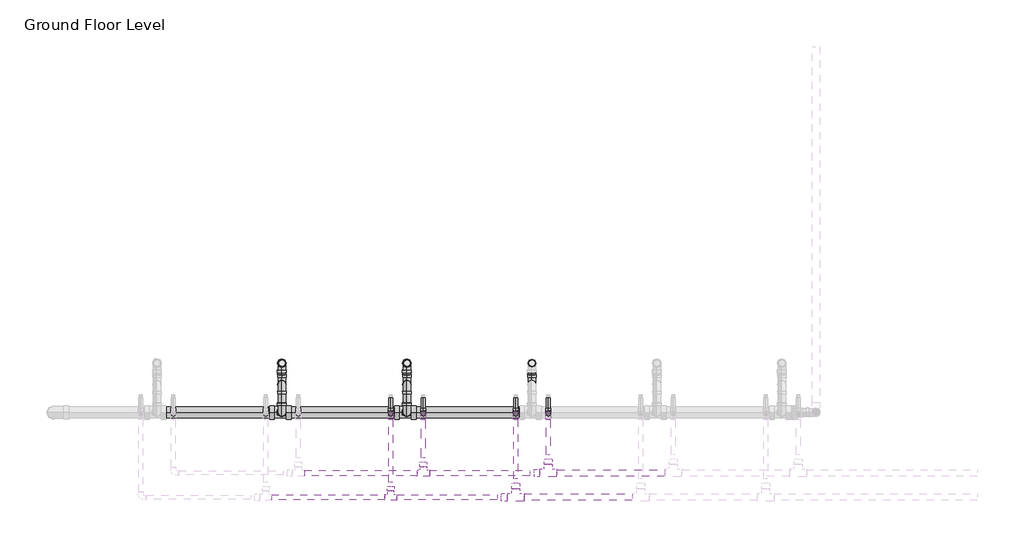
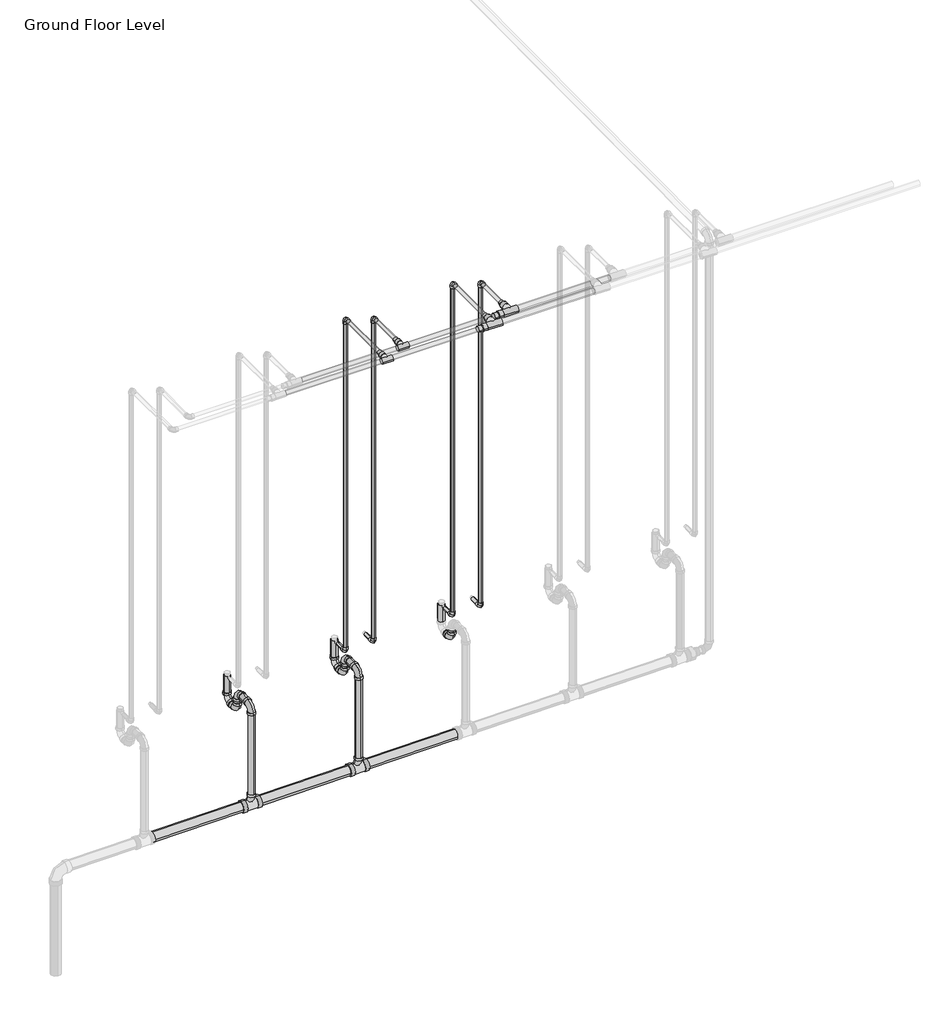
# One storey, part 40 of 74: 34 pipe segments, 29 pipe fittings.
"""IFC4 building model written with IfcOpenShell, lengths in millimetres."""

from ifc_helpers import new_model, si_unit, point, frame, frame_2d, origin, place, context, project, spatial, circle_curve, trimmed, segment, composite_curve, outline, extrude, transform, mapped, element, save
from components import m_bend_pvc_sch_40_dwv_standard_1e7bdcc1, m_bend_pvc_sch_40_dwv_standard_776e50c4, m_tee_reducing_sanitary_pvc_sch_40_dwv_standard_21d2848c, standard_b266ab3f, standard_72b35c3b, standard_08ff6011, standard_d0d0b892, standard_83629b21, standard_e954f56a

model = new_model("IFC4")

# Units and contexts
model_context = context("Model", 3, world=origin())
ifc_project = project(units=[si_unit("LENGTHUNIT", "METRE", prefix="MILLI")], contexts=[model_context])

# Site, building, storey
site = spatial("IfcSite", under=ifc_project)
building = spatial("IfcBuilding", under=site)
storey = spatial("IfcBuildingStorey", under=building, Name="Ground Floor Level", Elevation=900.0)

# Pipe fittings
placement = place(None, origin())
m_bend_pvc_sch_40_dwv_standard_shape = m_bend_pvc_sch_40_dwv_standard_1e7bdcc1(model_context)
element("IfcPipeFitting", 1, ObjectType="M_Bend - PVC - Sch 40 - DWV : Standard", at=placement, inside=storey, context=model_context, shape_type="MappedRepresentation", body=[
    mapped(m_bend_pvc_sch_40_dwv_standard_shape, transform((-19462.4847207, 9458.7835646, 1360.0), x_axis=(0.0, 0.9999500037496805, 0.009999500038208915), y_axis=(0.0, -0.009999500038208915, 0.9999500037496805), z_axis=(1.0, 0.0, 0.0))),
])
element("IfcPipeFitting", 2, ObjectType="M_Bend - PVC - Sch 40 - DWV : Standard", at=placement, inside=storey, context=model_context, shape_type="MappedRepresentation", body=[
    mapped(m_bend_pvc_sch_40_dwv_standard_shape, transform((-20262.4847207, 9458.7835646, 1360.0), x_axis=(0.0, 0.9999500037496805, 0.009999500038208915), y_axis=(0.0, -0.009999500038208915, 0.9999500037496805), z_axis=(1.0, 0.0, 0.0))),
])
element("IfcPipeFitting", 3, ObjectType="M_Bend - PVC - Sch 40 - DWV : Standard", at=placement, inside=storey, context=model_context, shape_type="MappedRepresentation", body=[
    mapped(m_bend_pvc_sch_40_dwv_standard_shape, transform((-19462.2847407, 9143.7835646, 1498.2), x_axis=(0.0, -0.9999500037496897, -0.00999950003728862), y_axis=(0.0, 0.00999950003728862, -0.9999500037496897), z_axis=(1.0, 0.0, 0.0))),
])
element("IfcPipeFitting", 4, ObjectType="M_Bend - PVC - Sch 40 - DWV : Standard", at=placement, inside=storey, context=model_context, shape_type="MappedRepresentation", body=[
    mapped(m_bend_pvc_sch_40_dwv_standard_shape, transform((-20262.2847407, 9143.7835646, 1498.2), x_axis=(0.0, -0.9999500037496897, -0.00999950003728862), y_axis=(0.0, 0.00999950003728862, -0.9999500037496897), z_axis=(1.0, 0.0, 0.0))),
])
m_bend_pvc_sch_40_dwv_standard_2_shape = m_bend_pvc_sch_40_dwv_standard_776e50c4(model_context)
element("IfcPipeFitting", 5, ObjectType="M_Bend - PVC - Sch 40 - DWV : Standard", at=placement, inside=storey, context=model_context, shape_type="MappedRepresentation", body=[
    mapped(m_bend_pvc_sch_40_dwv_standard_2_shape, transform((-18662.4847207, 9323.7835646, 1358.65), x_axis=(0.0, -0.9999500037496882, -0.009999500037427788), y_axis=(0.0, -0.009999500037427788, 0.9999500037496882), z_axis=(-1.0, 0.0, 0.0))),
])
element("IfcPipeFitting", 6, ObjectType="M_Bend - PVC - Sch 40 - DWV : Standard", at=placement, inside=storey, context=model_context, shape_type="MappedRepresentation", body=[
    mapped(m_bend_pvc_sch_40_dwv_standard_2_shape, transform((-19462.4847207, 9323.7835646, 1358.65), x_axis=(0.0, -0.9999500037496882, -0.009999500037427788), y_axis=(0.0, -0.009999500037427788, 0.9999500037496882), z_axis=(-1.0, 0.0, 0.0))),
])
element("IfcPipeFitting", 7, ObjectType="M_Bend - PVC - Sch 40 - DWV : Standard", at=placement, inside=storey, context=model_context, shape_type="MappedRepresentation", body=[
    mapped(m_bend_pvc_sch_40_dwv_standard_2_shape, transform((-19462.4847207, 9323.7835646, 1500.0), x_axis=(0.0, 0.0, 1.0), y_axis=(0.0, -1.0, 0.0), z_axis=(1.0, 0.0, 0.0))),
])
element("IfcPipeFitting", 8, ObjectType="M_Bend - PVC - Sch 40 - DWV : Standard", at=placement, inside=storey, context=model_context, shape_type="MappedRepresentation", body=[
    mapped(m_bend_pvc_sch_40_dwv_standard_2_shape, transform((-20262.4847207, 9323.7835646, 1358.65), x_axis=(0.0, -0.9999500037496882, -0.009999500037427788), y_axis=(0.0, -0.009999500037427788, 0.9999500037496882), z_axis=(-1.0, 0.0, 0.0))),
])
element("IfcPipeFitting", 9, ObjectType="M_Bend - PVC - Sch 40 - DWV : Standard", at=placement, inside=storey, context=model_context, shape_type="MappedRepresentation", body=[
    mapped(m_bend_pvc_sch_40_dwv_standard_2_shape, transform((-20262.4847207, 9323.7835646, 1500.0), x_axis=(0.0, 0.0, 1.0), y_axis=(0.0, -1.0, 0.0), z_axis=(1.0, 0.0, 0.0))),
])
m_tee_reducing_sanitary_pvc_sch_40_dwv_standard_shape = m_tee_reducing_sanitary_pvc_sch_40_dwv_standard_21d2848c(model_context)
element("IfcPipeFitting", 10, ObjectType="M_Tee Reducing Sanitary - PVC - Sch 40 - DWV : Standard", at=placement, inside=storey, context=model_context, shape_type="MappedRepresentation", body=[
    mapped(m_tee_reducing_sanitary_pvc_sch_40_dwv_standard_shape, transform((-19462.2892402, 9143.7835646, 735.2441999), x_axis=(0.9999500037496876, 0.0, 0.009999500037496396), y_axis=(0.009999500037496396, 0.0, -0.9999500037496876), z_axis=(0.0, 1.0, 0.0))),
])
element("IfcPipeFitting", 11, ObjectType="M_Tee Reducing Sanitary - PVC - Sch 40 - DWV : Standard", at=placement, inside=storey, context=model_context, shape_type="MappedRepresentation", body=[
    mapped(m_tee_reducing_sanitary_pvc_sch_40_dwv_standard_shape, transform((-20262.2892402, 9143.7835646, 727.2441999), x_axis=(0.9999500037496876, 0.0, 0.009999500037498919), y_axis=(0.009999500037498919, 0.0, -0.9999500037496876), z_axis=(0.0, 1.0, 0.0))),
])
standard_shape = standard_b266ab3f(model_context)
element("IfcPipeFitting", 12, ObjectType="M_Elbow - CPVC - Sch 40 : Standard", at=placement, inside=storey, context=model_context, shape_type="MappedRepresentation", body=[
    mapped(standard_shape, transform((-19356.9352794, 9135.2153534, 4250.0), x_axis=(0.0, 0.0, 1.0), y_axis=(0.0, -1.0, 0.0), z_axis=(1.0, 0.0, 0.0))),
])
element("IfcPipeFitting", 13, ObjectType="M_Elbow - CPVC - Sch 40 : Standard", at=placement, inside=storey, context=model_context, shape_type="MappedRepresentation", body=[
    mapped(standard_shape, transform((-18556.7923674, 9135.2153534, 4250.0), x_axis=(0.0, 0.0, 1.0), y_axis=(0.0, -1.0, 0.0), z_axis=(1.0, 0.0, 0.0))),
])
element("IfcPipeFitting", 14, ObjectType="M_Elbow - CPVC - Sch 40 : Standard", at=placement, inside=storey, context=model_context, shape_type="MappedRepresentation", body=[
    mapped(standard_shape, transform((-19565.5651206, 9135.2153534, 1690.0), x_axis=(0.0, 0.0, -1.0), y_axis=(0.0, 1.0, 0.0), z_axis=(1.0, 0.0, 0.0))),
])
element("IfcPipeFitting", 15, ObjectType="M_Elbow - CPVC - Sch 40 : Standard", at=placement, inside=storey, context=model_context, shape_type="MappedRepresentation", body=[
    mapped(standard_shape, transform((-19356.9352794, 9135.2153534, 1690.0), x_axis=(0.0, 0.0, -1.0), y_axis=(0.0, 1.0, 0.0), z_axis=(1.0, 0.0, 0.0))),
])
element("IfcPipeFitting", 16, ObjectType="M_Elbow - CPVC - Sch 40 : Standard", at=placement, inside=storey, context=model_context, shape_type="MappedRepresentation", body=[
    mapped(standard_shape, transform((-18765.4222086, 9135.2153534, 1690.0), x_axis=(0.0, 0.0, -1.0), y_axis=(-0.0014291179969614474, 0.999998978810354, 0.0), z_axis=(0.999998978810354, 0.0014291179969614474, 0.0))),
])
element("IfcPipeFitting", 17, ObjectType="M_Elbow - CPVC - Sch 40 : Standard", at=placement, inside=storey, context=model_context, shape_type="MappedRepresentation", body=[
    mapped(standard_shape, transform((-18556.7923674, 9135.2153534, 1690.0), x_axis=(0.0, 0.0, -1.0), y_axis=(-0.0014291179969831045, 0.9999989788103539, 0.0), z_axis=(0.9999989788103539, 0.0014291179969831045, 0.0))),
])
element("IfcPipeFitting", 18, ObjectType="M_Elbow - CPVC - Sch 40 : Standard", at=placement, inside=storey, context=model_context, shape_type="MappedRepresentation", body=[
    mapped(standard_shape, transform((-18765.4222086, 9135.2153534, 4315.0), x_axis=(0.0, 0.0, 1.0), y_axis=(0.0, -1.0, 0.0), z_axis=(1.0, 0.0, 0.0))),
])
element("IfcPipeFitting", 19, ObjectType="M_Elbow - CPVC - Sch 40 : Standard", at=placement, inside=storey, context=model_context, shape_type="MappedRepresentation", body=[
    mapped(standard_shape, transform((-19565.5651206, 9135.2153534, 4315.0), x_axis=(0.0, 0.0, 1.0), y_axis=(0.0, -1.0, 0.0), z_axis=(1.0, 0.0, 0.0))),
])
standard_2_shape = standard_72b35c3b(model_context)
element("IfcPipeFitting", 20, ObjectType="M_Tee - CPVC - Sch 40 : Standard", at=placement, inside=storey, context=model_context, shape_type="MappedRepresentation", body=[
    mapped(standard_2_shape, transform((-19565.5651206, 8599.9071734, 4315.0), x_axis=(1.0, 0.0, 0.0), y_axis=(0.0, -1.0, 0.0), z_axis=(0.0, 0.0, -1.0))),
])
element("IfcPipeFitting", 21, ObjectType="M_Tee - CPVC - Sch 40 : Standard", at=placement, inside=storey, context=model_context, shape_type="MappedRepresentation", body=[
    mapped(standard_2_shape, transform((-19356.9352794, 8755.2153534, 4250.0), x_axis=(-1.0, 0.0, 0.0), y_axis=(0.0, -1.0, 0.0), z_axis=(0.0, 0.0, 1.0))),
])
standard_3_shape = standard_08ff6011(model_context)
element("IfcPipeFitting", 22, ObjectType="M_Tee - CPVC - Sch 40 : Standard", at=placement, inside=storey, context=model_context, shape_type="MappedRepresentation", body=[
    mapped(standard_3_shape, transform((-18765.4222086, 8599.9071734, 4315.0), x_axis=(1.0, 0.0, 0.0), y_axis=(0.0, -1.0, 0.0), z_axis=(0.0, 0.0, -1.0))),
])
element("IfcPipeFitting", 23, ObjectType="M_Tee - CPVC - Sch 40 : Standard", at=placement, inside=storey, context=model_context, shape_type="MappedRepresentation", body=[
    mapped(standard_3_shape, transform((-18556.7923674, 8755.2153534, 4250.0), x_axis=(-1.0, 0.0, 0.0), y_axis=(0.0, -1.0, 0.0), z_axis=(0.0, 0.0, 1.0))),
])
standard_4_shape = standard_d0d0b892(model_context)
element("IfcPipeFitting", 24, ObjectType="M_Coupling Reducing - CPVC - Sch 40 : Standard", at=placement, inside=storey, context=model_context, shape_type="MappedRepresentation", body=[
    mapped(standard_4_shape, transform((-18819.3972086, 8599.9071734, 4315.0), x_axis=(-1.0, 0.0, 0.0), y_axis=(0.0, -1.0, 0.0), z_axis=(0.0, 0.0, 1.0))),
])
element("IfcPipeFitting", 25, ObjectType="M_Coupling Reducing - CPVC - Sch 40 : Standard", at=placement, inside=storey, context=model_context, shape_type="MappedRepresentation", body=[
    mapped(standard_4_shape, transform((-18610.7673674, 8755.2153534, 4250.0), x_axis=(-1.0, 0.0, 0.0), y_axis=(0.0, -1.0, 0.0), z_axis=(0.0, 0.0, 1.0))),
])
standard_5_shape = standard_83629b21(model_context)
element("IfcPipeFitting", 26, ObjectType="M_Coupling Reducing - CPVC - Sch 40 : Standard", at=placement, inside=storey, context=model_context, shape_type="MappedRepresentation", body=[
    mapped(standard_5_shape, transform((-18765.4222086, 8653.8821734, 4315.0), x_axis=(0.0, 1.0, 0.0), y_axis=(-1.0, 0.0, 0.0), z_axis=(0.0, 0.0, 1.0))),
])
element("IfcPipeFitting", 27, ObjectType="M_Coupling Reducing - CPVC - Sch 40 : Standard", at=placement, inside=storey, context=model_context, shape_type="MappedRepresentation", body=[
    mapped(standard_5_shape, transform((-18556.7923674, 8809.1903534, 4250.0), x_axis=(0.0, 1.0, 0.0), y_axis=(-1.0, 0.0, 0.0), z_axis=(0.0, 0.0, 1.0))),
])
standard_6_shape = standard_e954f56a(model_context)
element("IfcPipeFitting", 28, ObjectType="M_Coupling Reducing - CPVC - Sch 40 : Standard", at=placement, inside=storey, context=model_context, shape_type="MappedRepresentation", body=[
    mapped(standard_6_shape, transform((-19565.5651206, 8639.6073734, 4315.0), x_axis=(0.0, 1.0, 0.0), y_axis=(-1.0, 0.0, 0.0), z_axis=(0.0, 0.0, 1.0))),
])
element("IfcPipeFitting", 29, ObjectType="M_Coupling Reducing - CPVC - Sch 40 : Standard", at=placement, inside=storey, context=model_context, shape_type="MappedRepresentation", body=[
    mapped(standard_6_shape, transform((-19356.9352794, 8794.9155534, 4250.0), x_axis=(0.0, 1.0, 0.0), y_axis=(-1.0, 0.0, 0.0), z_axis=(0.0, 0.0, 1.0))),
])

# Pipe segments
element("IfcPipeSegment", 30, ObjectType="CPVC", at=placement, inside=storey, context=model_context, shape_type="SweptSolid", body=[
    extrude(outline(composite_curve([segment(trimmed(circle_curve(frame_2d((0.0, 13.335)), 13.335), [point((0.0, 26.67))], [point((13.335, 13.335))], False, "CARTESIAN"), True, "CONTINUOUS"), segment(trimmed(circle_curve(frame_2d((0.0, 13.335)), 13.335), [point((13.335, 13.335))], [point((0.0, 0.0))], False, "CARTESIAN"), True, "CONTINUOUS"), segment(trimmed(circle_curve(frame_2d((0.0, 13.335)), 13.335), [point((0.0, 0.0))], [point((-13.335, 13.335))], False, "CARTESIAN"), True, "CONTINUOUS"), segment(trimmed(circle_curve(frame_2d((0.0, 13.335)), 13.335), [point((-13.335, 13.335))], [point((0.0, 26.67))], False, "CARTESIAN"), True, "CONTINUOUS")], self_intersect=False)), frame((-19578.9001206, 9170.5404034, 1690.0), z_axis=(-1.3601818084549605e-11, 1.0, 0.0), x_axis=(0.0, 0.0, 1.0)), (0.0, 0.0, 1.0), 64.67495),
])
element("IfcPipeSegment", 31, ObjectType="CPVC", at=placement, inside=storey, context=model_context, shape_type="SweptSolid", body=[
    extrude(outline(composite_curve([segment(trimmed(circle_curve(frame_2d((4315.0, -19565.5651206)), 13.335), [point((4315.0, -19578.9001206))], [point((4301.665, -19565.5651206))], False, "CARTESIAN"), True, "CONTINUOUS"), segment(trimmed(circle_curve(frame_2d((4315.0, -19565.5651206)), 13.335), [point((4301.665, -19565.5651206))], [point((4315.0, -19552.2301206))], False, "CARTESIAN"), True, "CONTINUOUS"), segment(trimmed(circle_curve(frame_2d((4315.0, -19565.5651206)), 13.335), [point((4315.0, -19552.2301206))], [point((4328.335, -19565.5651206))], False, "CARTESIAN"), True, "CONTINUOUS"), segment(trimmed(circle_curve(frame_2d((4315.0, -19565.5651206)), 13.335), [point((4328.335, -19565.5651206))], [point((4315.0, -19578.9001206))], False, "CARTESIAN"), True, "CONTINUOUS")], self_intersect=False)), frame((0.0, 8696.7573734, 0.0), z_axis=(0.0, 1.0, 0.0), x_axis=(0.0, 0.0, 1.0)), (0.0, 0.0, 1.0), 403.13293),
])
element("IfcPipeSegment", 32, ObjectType="CPVC", at=placement, inside=storey, context=model_context, shape_type="SweptSolid", body=[
    extrude(outline(composite_curve([segment(trimmed(circle_curve(frame_2d((-19565.5651206, 9135.2153534)), 13.335), [point((-19578.9001206, 9135.2153534))], [point((-19565.5651206, 9148.5503534))], False, "CARTESIAN"), True, "CONTINUOUS"), segment(trimmed(circle_curve(frame_2d((-19565.5651206, 9135.2153534)), 13.335), [point((-19565.5651206, 9148.5503534))], [point((-19552.2301206, 9135.2153534))], False, "CARTESIAN"), True, "CONTINUOUS"), segment(trimmed(circle_curve(frame_2d((-19565.5651206, 9135.2153534)), 13.335), [point((-19552.2301206, 9135.2153534))], [point((-19565.5651206, 9121.8803534))], False, "CARTESIAN"), True, "CONTINUOUS"), segment(trimmed(circle_curve(frame_2d((-19565.5651206, 9135.2153534)), 13.335), [point((-19565.5651206, 9121.8803534))], [point((-19578.9001206, 9135.2153534))], False, "CARTESIAN"), True, "CONTINUOUS")], self_intersect=False)), frame((0.0, 0.0, 1725.32505), z_axis=(0.0, 0.0, 1.0), x_axis=(1.0, 0.0, 0.0)), (0.0, 0.0, 1.0), 2554.3499),
])
element("IfcPipeSegment", 33, ObjectType="CPVC", at=placement, inside=storey, context=model_context, shape_type="SweptSolid", body=[
    extrude(outline(composite_curve([segment(trimmed(circle_curve(frame_2d((0.0, 13.335)), 13.335), [point((0.0, 26.67))], [point((13.335, 13.335))], False, "CARTESIAN"), True, "CONTINUOUS"), segment(trimmed(circle_curve(frame_2d((0.0, 13.335)), 13.335), [point((13.335, 13.335))], [point((0.0, 0.0))], False, "CARTESIAN"), True, "CONTINUOUS"), segment(trimmed(circle_curve(frame_2d((0.0, 13.335)), 13.335), [point((0.0, 0.0))], [point((-13.335, 13.335))], False, "CARTESIAN"), True, "CONTINUOUS"), segment(trimmed(circle_curve(frame_2d((0.0, 13.335)), 13.335), [point((-13.335, 13.335))], [point((0.0, 26.67))], False, "CARTESIAN"), True, "CONTINUOUS")], self_intersect=False)), frame((-19370.2702794, 9170.5404034, 1690.0), z_axis=(-1.3642420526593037e-11, 1.0, 0.0), x_axis=(0.0, 0.0, 1.0)), (0.0, 0.0, 1.0), 64.67495),
])
element("IfcPipeSegment", 34, ObjectType="CPVC", at=placement, inside=storey, context=model_context, shape_type="SweptSolid", body=[
    extrude(outline(composite_curve([segment(trimmed(circle_curve(frame_2d((4250.0, -19356.9352794)), 13.335), [point((4250.0, -19370.2702794))], [point((4236.665, -19356.9352794))], False, "CARTESIAN"), True, "CONTINUOUS"), segment(trimmed(circle_curve(frame_2d((4250.0, -19356.9352794)), 13.335), [point((4236.665, -19356.9352794))], [point((4250.0, -19343.6002794))], False, "CARTESIAN"), True, "CONTINUOUS"), segment(trimmed(circle_curve(frame_2d((4250.0, -19356.9352794)), 13.335), [point((4250.0, -19343.6002794))], [point((4263.335, -19356.9352794))], False, "CARTESIAN"), True, "CONTINUOUS"), segment(trimmed(circle_curve(frame_2d((4250.0, -19356.9352794)), 13.335), [point((4263.335, -19356.9352794))], [point((4250.0, -19370.2702794))], False, "CARTESIAN"), True, "CONTINUOUS")], self_intersect=False)), frame((0.0, 8852.0655534, 0.0), z_axis=(0.0, 1.0, 0.0), x_axis=(0.0, 0.0, 1.0)), (0.0, 0.0, 1.0), 247.82475),
])
element("IfcPipeSegment", 35, ObjectType="CPVC", at=placement, inside=storey, context=model_context, shape_type="SweptSolid", body=[
    extrude(outline(composite_curve([segment(trimmed(circle_curve(frame_2d((-19356.9352794, 9135.2153534)), 13.335), [point((-19370.2702794, 9135.2153534))], [point((-19356.9352794, 9148.5503534))], False, "CARTESIAN"), True, "CONTINUOUS"), segment(trimmed(circle_curve(frame_2d((-19356.9352794, 9135.2153534)), 13.335), [point((-19356.9352794, 9148.5503534))], [point((-19343.6002794, 9135.2153534))], False, "CARTESIAN"), True, "CONTINUOUS"), segment(trimmed(circle_curve(frame_2d((-19356.9352794, 9135.2153534)), 13.335), [point((-19343.6002794, 9135.2153534))], [point((-19356.9352794, 9121.8803534))], False, "CARTESIAN"), True, "CONTINUOUS"), segment(trimmed(circle_curve(frame_2d((-19356.9352794, 9135.2153534)), 13.335), [point((-19356.9352794, 9121.8803534))], [point((-19370.2702794, 9135.2153534))], False, "CARTESIAN"), True, "CONTINUOUS")], self_intersect=False)), frame((0.0, 0.0, 1725.32505), z_axis=(0.0, 0.0, 1.0), x_axis=(1.0, 0.0, 0.0)), (0.0, 0.0, 1.0), 2489.3499),
])
element("IfcPipeSegment", 36, ObjectType="CPVC", at=placement, inside=storey, context=model_context, shape_type="SweptSolid", body=[
    extrude(outline(composite_curve([segment(trimmed(circle_curve(frame_2d((0.0, 13.335)), 13.335), [point((0.0, 26.67))], [point((13.335, 13.335))], False, "CARTESIAN"), True, "CONTINUOUS"), segment(trimmed(circle_curve(frame_2d((0.0, 13.335)), 13.335), [point((13.335, 13.335))], [point((0.0, 0.0))], False, "CARTESIAN"), True, "CONTINUOUS"), segment(trimmed(circle_curve(frame_2d((0.0, 13.335)), 13.335), [point((0.0, 0.0))], [point((-13.335, 13.335))], False, "CARTESIAN"), True, "CONTINUOUS"), segment(trimmed(circle_curve(frame_2d((0.0, 13.335)), 13.335), [point((-13.335, 13.335))], [point((0.0, 26.67))], False, "CARTESIAN"), True, "CONTINUOUS")], self_intersect=False)), frame((-18778.8076787, 9170.52131, 1690.0), z_axis=(-0.0014291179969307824, 0.999998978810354, 0.0), x_axis=(0.0, 0.0, 1.0)), (0.0, 0.0, 1.0), 64.6750521),
])
element("IfcPipeSegment", 37, ObjectType="CPVC", at=placement, inside=storey, context=model_context, shape_type="SweptSolid", body=[
    extrude(outline(composite_curve([segment(trimmed(circle_curve(frame_2d((4315.0, -18765.4222086)), 13.335), [point((4315.0, -18778.7572086))], [point((4301.665, -18765.4222086))], False, "CARTESIAN"), True, "CONTINUOUS"), segment(trimmed(circle_curve(frame_2d((4315.0, -18765.4222086)), 13.335), [point((4301.665, -18765.4222086))], [point((4315.0, -18752.0872086))], False, "CARTESIAN"), True, "CONTINUOUS"), segment(trimmed(circle_curve(frame_2d((4315.0, -18765.4222086)), 13.335), [point((4315.0, -18752.0872086))], [point((4328.335, -18765.4222086))], False, "CARTESIAN"), True, "CONTINUOUS"), segment(trimmed(circle_curve(frame_2d((4315.0, -18765.4222086)), 13.335), [point((4328.335, -18765.4222086))], [point((4315.0, -18778.7572086))], False, "CARTESIAN"), True, "CONTINUOUS")], self_intersect=False)), frame((0.0, 8716.6990484, 0.0), z_axis=(0.0, 1.0, 0.0), x_axis=(0.0, 0.0, 1.0)), (0.0, 0.0, 1.0), 383.191255),
])
element("IfcPipeSegment", 38, ObjectType="CPVC", at=placement, inside=storey, context=model_context, shape_type="SweptSolid", body=[
    extrude(outline(composite_curve([segment(trimmed(circle_curve(frame_2d((-18765.4222086, 9135.2153534)), 13.335), [point((-18778.7572086, 9135.2153534))], [point((-18765.4222086, 9148.5503534))], False, "CARTESIAN"), True, "CONTINUOUS"), segment(trimmed(circle_curve(frame_2d((-18765.4222086, 9135.2153534)), 13.335), [point((-18765.4222086, 9148.5503534))], [point((-18752.0872086, 9135.2153534))], False, "CARTESIAN"), True, "CONTINUOUS"), segment(trimmed(circle_curve(frame_2d((-18765.4222086, 9135.2153534)), 13.335), [point((-18752.0872086, 9135.2153534))], [point((-18765.4222086, 9121.8803534))], False, "CARTESIAN"), True, "CONTINUOUS"), segment(trimmed(circle_curve(frame_2d((-18765.4222086, 9135.2153534)), 13.335), [point((-18765.4222086, 9121.8803534))], [point((-18778.7572086, 9135.2153534))], False, "CARTESIAN"), True, "CONTINUOUS")], self_intersect=False)), frame((0.0, 0.0, 1725.32505), z_axis=(0.0, 0.0, 1.0), x_axis=(1.0, 0.0, 0.0)), (0.0, 0.0, 1.0), 2554.3499),
])
element("IfcPipeSegment", 39, ObjectType="CPVC", at=placement, inside=storey, context=model_context, shape_type="SweptSolid", body=[
    extrude(outline(composite_curve([segment(trimmed(circle_curve(frame_2d((0.0, 13.335)), 13.335), [point((0.0, 26.67))], [point((13.335, 13.335))], False, "CARTESIAN"), True, "CONTINUOUS"), segment(trimmed(circle_curve(frame_2d((0.0, 13.335)), 13.335), [point((13.335, 13.335))], [point((0.0, 0.0))], False, "CARTESIAN"), True, "CONTINUOUS"), segment(trimmed(circle_curve(frame_2d((0.0, 13.335)), 13.335), [point((0.0, 0.0))], [point((-13.335, 13.335))], False, "CARTESIAN"), True, "CONTINUOUS"), segment(trimmed(circle_curve(frame_2d((0.0, 13.335)), 13.335), [point((-13.335, 13.335))], [point((0.0, 26.67))], False, "CARTESIAN"), True, "CONTINUOUS")], self_intersect=False)), frame((-18570.1778375, 9170.52131, 1690.0), z_axis=(-0.0014291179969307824, 0.999998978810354, 0.0), x_axis=(0.0, 0.0, 1.0)), (0.0, 0.0, 1.0), 64.6750521),
])
element("IfcPipeSegment", 40, ObjectType="CPVC", at=placement, inside=storey, context=model_context, shape_type="SweptSolid", body=[
    extrude(outline(composite_curve([segment(trimmed(circle_curve(frame_2d((4250.0, -18556.7923674)), 13.335), [point((4250.0, -18570.1273674))], [point((4236.665, -18556.7923674))], False, "CARTESIAN"), True, "CONTINUOUS"), segment(trimmed(circle_curve(frame_2d((4250.0, -18556.7923674)), 13.335), [point((4236.665, -18556.7923674))], [point((4250.0, -18543.4573674))], False, "CARTESIAN"), True, "CONTINUOUS"), segment(trimmed(circle_curve(frame_2d((4250.0, -18556.7923674)), 13.335), [point((4250.0, -18543.4573674))], [point((4263.335, -18556.7923674))], False, "CARTESIAN"), True, "CONTINUOUS"), segment(trimmed(circle_curve(frame_2d((4250.0, -18556.7923674)), 13.335), [point((4263.335, -18556.7923674))], [point((4250.0, -18570.1273674))], False, "CARTESIAN"), True, "CONTINUOUS")], self_intersect=False)), frame((0.0, 8872.0072284, 0.0), z_axis=(0.0, 1.0, 0.0), x_axis=(0.0, 0.0, 1.0)), (0.0, 0.0, 1.0), 227.883075),
])
element("IfcPipeSegment", 41, ObjectType="CPVC", at=placement, inside=storey, context=model_context, shape_type="SweptSolid", body=[
    extrude(outline(composite_curve([segment(trimmed(circle_curve(frame_2d((-18556.7923674, 9135.2153534)), 13.335), [point((-18570.1273674, 9135.2153534))], [point((-18556.7923674, 9148.5503534))], False, "CARTESIAN"), True, "CONTINUOUS"), segment(trimmed(circle_curve(frame_2d((-18556.7923674, 9135.2153534)), 13.335), [point((-18556.7923674, 9148.5503534))], [point((-18543.4573674, 9135.2153534))], False, "CARTESIAN"), True, "CONTINUOUS"), segment(trimmed(circle_curve(frame_2d((-18556.7923674, 9135.2153534)), 13.335), [point((-18543.4573674, 9135.2153534))], [point((-18556.7923674, 9121.8803534))], False, "CARTESIAN"), True, "CONTINUOUS"), segment(trimmed(circle_curve(frame_2d((-18556.7923674, 9135.2153534)), 13.335), [point((-18556.7923674, 9121.8803534))], [point((-18570.1273674, 9135.2153534))], False, "CARTESIAN"), True, "CONTINUOUS")], self_intersect=False)), frame((0.0, 0.0, 1725.32505), z_axis=(0.0, 0.0, 1.0), x_axis=(1.0, 0.0, 0.0)), (0.0, 0.0, 1.0), 2489.3499),
])
element("IfcPipeSegment", 42, ObjectType="CPVC", at=placement, inside=storey, context=model_context, shape_type="SweptSolid", body=[
    extrude(outline(composite_curve([segment(trimmed(circle_curve(frame_2d((8599.9071734, 4315.0)), 21.082), [point((8620.9891734, 4315.0))], [point((8599.9071734, 4293.918))], False, "CARTESIAN"), True, "CONTINUOUS"), segment(trimmed(circle_curve(frame_2d((8599.9071734, 4315.0)), 21.082), [point((8599.9071734, 4293.918))], [point((8578.8251734, 4315.0))], False, "CARTESIAN"), True, "CONTINUOUS"), segment(trimmed(circle_curve(frame_2d((8599.9071734, 4315.0)), 21.082), [point((8578.8251734, 4315.0))], [point((8599.9071734, 4336.082))], False, "CARTESIAN"), True, "CONTINUOUS"), segment(trimmed(circle_curve(frame_2d((8599.9071734, 4315.0)), 21.082), [point((8599.9071734, 4336.082))], [point((8620.9891734, 4315.0))], False, "CARTESIAN"), True, "CONTINUOUS")], self_intersect=False)), frame((-18711.4472086, 0.0, 0.0), z_axis=(1.0, 0.0, 0.0), x_axis=(0.0, 1.0, 0.0)), (0.0, 0.0, 1.0), 692.05),
])
element("IfcPipeSegment", 43, ObjectType="CPVC", at=placement, inside=storey, context=model_context, shape_type="SweptSolid", body=[
    extrude(outline(composite_curve([segment(trimmed(circle_curve(frame_2d((8599.9071734, 4315.0)), 16.7005), [point((8616.6076734, 4315.0))], [point((8599.9071734, 4298.2995))], False, "CARTESIAN"), True, "CONTINUOUS"), segment(trimmed(circle_curve(frame_2d((8599.9071734, 4315.0)), 16.7005), [point((8599.9071734, 4298.2995))], [point((8583.2066734, 4315.0))], False, "CARTESIAN"), True, "CONTINUOUS"), segment(trimmed(circle_curve(frame_2d((8599.9071734, 4315.0)), 16.7005), [point((8583.2066734, 4315.0))], [point((8599.9071734, 4331.7005))], False, "CARTESIAN"), True, "CONTINUOUS"), segment(trimmed(circle_curve(frame_2d((8599.9071734, 4315.0)), 16.7005), [point((8599.9071734, 4331.7005))], [point((8616.6076734, 4315.0))], False, "CARTESIAN"), True, "CONTINUOUS")], self_intersect=False)), frame((-19525.8649206, 0.0, 0.0), z_axis=(1.0, 0.0, 0.0), x_axis=(0.0, 1.0, 0.0)), (0.0, 0.0, 1.0), 640.3488369),
])
element("IfcPipeSegment", 44, ObjectType="CPVC", at=placement, inside=storey, context=model_context, shape_type="SweptSolid", body=[
    extrude(outline(composite_curve([segment(trimmed(circle_curve(frame_2d((8599.9071734, 4315.0)), 16.7005), [point((8616.6076734, 4315.0))], [point((8599.9071734, 4298.2995))], False, "CARTESIAN"), True, "CONTINUOUS"), segment(trimmed(circle_curve(frame_2d((8599.9071734, 4315.0)), 16.7005), [point((8599.9071734, 4298.2995))], [point((8583.2066734, 4315.0))], False, "CARTESIAN"), True, "CONTINUOUS"), segment(trimmed(circle_curve(frame_2d((8599.9071734, 4315.0)), 16.7005), [point((8583.2066734, 4315.0))], [point((8599.9071734, 4331.7005))], False, "CARTESIAN"), True, "CONTINUOUS"), segment(trimmed(circle_curve(frame_2d((8599.9071734, 4315.0)), 16.7005), [point((8599.9071734, 4331.7005))], [point((8616.6076734, 4315.0))], False, "CARTESIAN"), True, "CONTINUOUS")], self_intersect=False)), frame((-20325.8649206, 0.0, 0.0), z_axis=(1.0, 0.0, 0.0), x_axis=(0.0, 1.0, 0.0)), (0.0, 0.0, 1.0), 720.5996),
])
element("IfcPipeSegment", 45, ObjectType="CPVC", at=placement, inside=storey, context=model_context, shape_type="SweptSolid", body=[
    extrude(outline(composite_curve([segment(trimmed(circle_curve(frame_2d((8755.2153534, 4250.0)), 16.7005), [point((8738.5148534, 4250.0))], [point((8755.2153534, 4266.7005))], False, "CARTESIAN"), True, "CONTINUOUS"), segment(trimmed(circle_curve(frame_2d((8755.2153534, 4250.0)), 16.7005), [point((8755.2153534, 4266.7005))], [point((8771.9158534, 4250.0))], False, "CARTESIAN"), True, "CONTINUOUS"), segment(trimmed(circle_curve(frame_2d((8755.2153534, 4250.0)), 16.7005), [point((8771.9158534, 4250.0))], [point((8755.2153534, 4233.2995))], False, "CARTESIAN"), True, "CONTINUOUS"), segment(trimmed(circle_curve(frame_2d((8755.2153534, 4250.0)), 16.7005), [point((8755.2153534, 4233.2995))], [point((8738.5148534, 4250.0))], False, "CARTESIAN"), True, "CONTINUOUS")], self_intersect=False)), frame((-20117.2350794, 0.0, 0.0), z_axis=(1.0, 0.0, 0.0), x_axis=(0.0, 1.0, 0.0)), (0.0, 0.0, 1.0), 720.5996),
])
element("IfcPipeSegment", 46, ObjectType="CPVC", at=placement, inside=storey, context=model_context, shape_type="SweptSolid", body=[
    extrude(outline(composite_curve([segment(trimmed(circle_curve(frame_2d((8755.2153534, 4250.0)), 16.7005), [point((8738.5148534, 4250.0))], [point((8755.2153534, 4266.7005))], False, "CARTESIAN"), True, "CONTINUOUS"), segment(trimmed(circle_curve(frame_2d((8755.2153534, 4250.0)), 16.7005), [point((8755.2153534, 4266.7005))], [point((8771.9158534, 4250.0))], False, "CARTESIAN"), True, "CONTINUOUS"), segment(trimmed(circle_curve(frame_2d((8755.2153534, 4250.0)), 16.7005), [point((8771.9158534, 4250.0))], [point((8755.2153534, 4233.2995))], False, "CARTESIAN"), True, "CONTINUOUS"), segment(trimmed(circle_curve(frame_2d((8755.2153534, 4250.0)), 16.7005), [point((8755.2153534, 4233.2995))], [point((8738.5148534, 4250.0))], False, "CARTESIAN"), True, "CONTINUOUS")], self_intersect=False)), frame((-19317.2350794, 0.0, 0.0), z_axis=(1.0, 0.0, 0.0), x_axis=(0.0, 1.0, 0.0)), (0.0, 0.0, 1.0), 640.3488369),
])
element("IfcPipeSegment", 47, ObjectType="CPVC", at=placement, inside=storey, context=model_context, shape_type="SweptSolid", body=[
    extrude(outline(composite_curve([segment(trimmed(circle_curve(frame_2d((8755.2153534, 4250.0)), 21.082), [point((8734.1333534, 4250.0))], [point((8755.2153534, 4271.082))], False, "CARTESIAN"), True, "CONTINUOUS"), segment(trimmed(circle_curve(frame_2d((8755.2153534, 4250.0)), 21.082), [point((8755.2153534, 4271.082))], [point((8776.2973534, 4250.0))], False, "CARTESIAN"), True, "CONTINUOUS"), segment(trimmed(circle_curve(frame_2d((8755.2153534, 4250.0)), 21.082), [point((8776.2973534, 4250.0))], [point((8755.2153534, 4228.918))], False, "CARTESIAN"), True, "CONTINUOUS"), segment(trimmed(circle_curve(frame_2d((8755.2153534, 4250.0)), 21.082), [point((8755.2153534, 4228.918))], [point((8734.1333534, 4250.0))], False, "CARTESIAN"), True, "CONTINUOUS")], self_intersect=False)), frame((-18502.8173674, 0.0, 0.0), z_axis=(1.0, 0.0, 0.0), x_axis=(0.0, 1.0, 0.0)), (0.0, 0.0, 1.0), 692.05),
])
element("IfcPipeSegment", 48, ObjectType="PVC - DWV", at=placement, inside=storey, context=model_context, shape_type="SweptSolid", body=[
    extrude(outline(composite_curve([segment(trimmed(circle_curve(frame_2d((-18662.4847207, 9458.7835646)), 24.13), [point((-18686.6147207, 9458.7835646))], [point((-18662.4847207, 9482.9135646))], False, "CARTESIAN"), True, "CONTINUOUS"), segment(trimmed(circle_curve(frame_2d((-18662.4847207, 9458.7835646)), 24.13), [point((-18662.4847207, 9482.9135646))], [point((-18638.3547207, 9458.7835646))], False, "CARTESIAN"), True, "CONTINUOUS"), segment(trimmed(circle_curve(frame_2d((-18662.4847207, 9458.7835646)), 24.13), [point((-18638.3547207, 9458.7835646))], [point((-18662.4847207, 9434.6535646))], False, "CARTESIAN"), True, "CONTINUOUS"), segment(trimmed(circle_curve(frame_2d((-18662.4847207, 9458.7835646)), 24.13), [point((-18662.4847207, 9434.6535646))], [point((-18686.6147207, 9458.7835646))], False, "CARTESIAN"), True, "CONTINUOUS")], self_intersect=False)), frame((0.0, 0.0, 1421.8998), z_axis=(0.0, 0.0, 1.0), x_axis=(1.0, 0.0, 0.0)), (0.0, 0.0, 1.0), 128.1002),
])
element("IfcPipeSegment", 49, ObjectType="PVC - DWV", at=placement, inside=storey, context=model_context, shape_type="SweptSolid", body=[
    extrude(outline(composite_curve([segment(trimmed(circle_curve(frame_2d((0.0, -24.13)), 24.13), [point((-24.13, -24.13))], [point((0.0, 0.0))], False, "CARTESIAN"), True, "CONTINUOUS"), segment(trimmed(circle_curve(frame_2d((0.0, -24.13)), 24.13), [point((0.0, 0.0))], [point((24.13, -24.13))], False, "CARTESIAN"), True, "CONTINUOUS"), segment(trimmed(circle_curve(frame_2d((0.0, -24.13)), 24.13), [point((24.13, -24.13))], [point((0.0, -48.2599999))], False, "CARTESIAN"), True, "CONTINUOUS"), segment(trimmed(circle_curve(frame_2d((0.0, -24.13)), 24.13), [point((0.0, -48.2599999))], [point((-24.13, -24.13))], False, "CARTESIAN"), True, "CONTINUOUS")], self_intersect=False)), frame((-18662.4847207, 9385.9215577, 1335.1401735), z_axis=(0.0, 0.9999500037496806, 0.009999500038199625), x_axis=(1.0, 0.0, 0.0)), (0.0, 0.0, 1.0), 11.2071498),
])
element("IfcPipeSegment", 50, ObjectType="PVC - DWV", at=placement, inside=storey, context=model_context, shape_type="SweptSolid", body=[
    extrude(outline(composite_curve([segment(trimmed(circle_curve(frame_2d((-18662.4847207, 9323.7835646)), 24.13), [point((-18686.6147207, 9323.7835646))], [point((-18662.4847207, 9347.9135646))], False, "CARTESIAN"), True, "CONTINUOUS"), segment(trimmed(circle_curve(frame_2d((-18662.4847207, 9323.7835646)), 24.13), [point((-18662.4847207, 9347.9135646))], [point((-18638.3547207, 9323.7835646))], False, "CARTESIAN"), True, "CONTINUOUS"), segment(trimmed(circle_curve(frame_2d((-18662.4847207, 9323.7835646)), 24.13), [point((-18638.3547207, 9323.7835646))], [point((-18662.4847207, 9299.6535646))], False, "CARTESIAN"), True, "CONTINUOUS"), segment(trimmed(circle_curve(frame_2d((-18662.4847207, 9323.7835646)), 24.13), [point((-18662.4847207, 9299.6535646))], [point((-18686.6147207, 9323.7835646))], False, "CARTESIAN"), True, "CONTINUOUS")], self_intersect=False)), frame((0.0, 0.0, 1420.5498), z_axis=(0.0, 0.0, 1.0), x_axis=(1.0, 0.0, 0.0)), (0.0, 0.0, 1.0), 17.5504),
])
element("IfcPipeSegment", 51, ObjectType="PVC - DWV", at=placement, inside=storey, context=model_context, shape_type="SweptSolid", body=[
    extrude(outline(composite_curve([segment(trimmed(circle_curve(frame_2d((-19462.4847207, 9458.7835646)), 24.13), [point((-19486.6147207, 9458.7835646))], [point((-19462.4847207, 9482.9135646))], False, "CARTESIAN"), True, "CONTINUOUS"), segment(trimmed(circle_curve(frame_2d((-19462.4847207, 9458.7835646)), 24.13), [point((-19462.4847207, 9482.9135646))], [point((-19438.3547207, 9458.7835646))], False, "CARTESIAN"), True, "CONTINUOUS"), segment(trimmed(circle_curve(frame_2d((-19462.4847207, 9458.7835646)), 24.13), [point((-19438.3547207, 9458.7835646))], [point((-19462.4847207, 9434.6535646))], False, "CARTESIAN"), True, "CONTINUOUS"), segment(trimmed(circle_curve(frame_2d((-19462.4847207, 9458.7835646)), 24.13), [point((-19462.4847207, 9434.6535646))], [point((-19486.6147207, 9458.7835646))], False, "CARTESIAN"), True, "CONTINUOUS")], self_intersect=False)), frame((0.0, 0.0, 1421.8998), z_axis=(0.0, 0.0, 1.0), x_axis=(1.0, 0.0, 0.0)), (0.0, 0.0, 1.0), 128.1002),
])
element("IfcPipeSegment", 52, ObjectType="PVC - DWV", at=placement, inside=storey, context=model_context, shape_type="SweptSolid", body=[
    extrude(outline(composite_curve([segment(trimmed(circle_curve(frame_2d((0.0, -24.13)), 24.13), [point((-24.13, -24.13))], [point((0.0, 0.0))], False, "CARTESIAN"), True, "CONTINUOUS"), segment(trimmed(circle_curve(frame_2d((0.0, -24.13)), 24.13), [point((0.0, 0.0))], [point((24.13, -24.13))], False, "CARTESIAN"), True, "CONTINUOUS"), segment(trimmed(circle_curve(frame_2d((0.0, -24.13)), 24.13), [point((24.13, -24.13))], [point((0.0, -48.2599999))], False, "CARTESIAN"), True, "CONTINUOUS"), segment(trimmed(circle_curve(frame_2d((0.0, -24.13)), 24.13), [point((0.0, -48.2599999))], [point((-24.13, -24.13))], False, "CARTESIAN"), True, "CONTINUOUS")], self_intersect=False)), frame((-19462.4847207, 9385.9215577, 1335.1401735), z_axis=(0.0, 0.9999500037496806, 0.009999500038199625), x_axis=(1.0, 0.0, 0.0)), (0.0, 0.0, 1.0), 11.2071498),
])
element("IfcPipeSegment", 53, ObjectType="PVC - DWV", at=placement, inside=storey, context=model_context, shape_type="SweptSolid", body=[
    extrude(outline(composite_curve([segment(trimmed(circle_curve(frame_2d((-19462.4847207, 9323.7835646)), 24.13), [point((-19486.6147207, 9323.7835646))], [point((-19462.4847207, 9347.9135646))], False, "CARTESIAN"), True, "CONTINUOUS"), segment(trimmed(circle_curve(frame_2d((-19462.4847207, 9323.7835646)), 24.13), [point((-19462.4847207, 9347.9135646))], [point((-19438.3547207, 9323.7835646))], False, "CARTESIAN"), True, "CONTINUOUS"), segment(trimmed(circle_curve(frame_2d((-19462.4847207, 9323.7835646)), 24.13), [point((-19438.3547207, 9323.7835646))], [point((-19462.4847207, 9299.6535646))], False, "CARTESIAN"), True, "CONTINUOUS"), segment(trimmed(circle_curve(frame_2d((-19462.4847207, 9323.7835646)), 24.13), [point((-19462.4847207, 9299.6535646))], [point((-19486.6147207, 9323.7835646))], False, "CARTESIAN"), True, "CONTINUOUS")], self_intersect=False)), frame((0.0, 0.0, 1420.5498), z_axis=(0.0, 0.0, 1.0), x_axis=(1.0, 0.0, 0.0)), (0.0, 0.0, 1.0), 17.5504),
])
element("IfcPipeSegment", 54, ObjectType="PVC - DWV", at=placement, inside=storey, context=model_context, shape_type="SweptSolid", body=[
    extrude(outline(composite_curve([segment(trimmed(circle_curve(frame_2d((0.0, -24.13)), 24.13), [point((-24.13, -24.13))], [point((0.0, 0.0))], False, "CARTESIAN"), True, "CONTINUOUS"), segment(trimmed(circle_curve(frame_2d((0.0, -24.13)), 24.13), [point((0.0, 0.0))], [point((24.13, -24.13))], False, "CARTESIAN"), True, "CONTINUOUS"), segment(trimmed(circle_curve(frame_2d((0.0, -24.13)), 24.13), [point((24.13, -24.13))], [point((0.0, -48.2599999))], False, "CARTESIAN"), True, "CONTINUOUS"), segment(trimmed(circle_curve(frame_2d((0.0, -24.13)), 24.13), [point((0.0, -48.2599999))], [point((-24.13, -24.13))], False, "CARTESIAN"), True, "CONTINUOUS")], self_intersect=False)), frame((-19462.2847407, 9205.9215577, 1474.6901735), z_axis=(0.0, 0.9999500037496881, 0.009999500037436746), x_axis=(1.0, 0.0, 0.0)), (0.0, 0.0, 1.0), 56.2093998),
])
element("IfcPipeSegment", 55, ObjectType="PVC - DWV", at=placement, inside=storey, context=model_context, shape_type="SweptSolid", body=[
    extrude(outline(composite_curve([segment(trimmed(circle_curve(frame_2d((0.0, 24.13)), 24.13), [point((-24.13, 24.13))], [point((0.0, 48.26))], False, "CARTESIAN"), True, "CONTINUOUS"), segment(trimmed(circle_curve(frame_2d((0.0, 24.13)), 24.13), [point((0.0, 48.26))], [point((24.13, 24.13))], False, "CARTESIAN"), True, "CONTINUOUS"), segment(trimmed(circle_curve(frame_2d((0.0, 24.13)), 24.13), [point((24.13, 24.13))], [point((0.0, 0.0))], False, "CARTESIAN"), True, "CONTINUOUS"), segment(trimmed(circle_curve(frame_2d((0.0, 24.13)), 24.13), [point((0.0, 0.0))], [point((-24.13, 24.13))], False, "CARTESIAN"), True, "CONTINUOUS")], self_intersect=False)), frame((-19462.2892402, 9119.6535646, 816.0916561), z_axis=(7.254898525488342e-06, 0.0, 0.9999999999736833), x_axis=(0.9999999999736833, 0.0, -7.254898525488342e-06)), (0.0, 0.0, 1.0), 620.2085439),
])
element("IfcPipeSegment", 56, ObjectType="PVC - DWV", at=placement, inside=storey, context=model_context, shape_type="SweptSolid", body=[
    extrude(outline(composite_curve([segment(trimmed(circle_curve(frame_2d((-20262.4847207, 9458.7835646)), 24.13), [point((-20286.6147207, 9458.7835646))], [point((-20262.4847207, 9482.9135646))], False, "CARTESIAN"), True, "CONTINUOUS"), segment(trimmed(circle_curve(frame_2d((-20262.4847207, 9458.7835646)), 24.13), [point((-20262.4847207, 9482.9135646))], [point((-20238.3547207, 9458.7835646))], False, "CARTESIAN"), True, "CONTINUOUS"), segment(trimmed(circle_curve(frame_2d((-20262.4847207, 9458.7835646)), 24.13), [point((-20238.3547207, 9458.7835646))], [point((-20262.4847207, 9434.6535646))], False, "CARTESIAN"), True, "CONTINUOUS"), segment(trimmed(circle_curve(frame_2d((-20262.4847207, 9458.7835646)), 24.13), [point((-20262.4847207, 9434.6535646))], [point((-20286.6147207, 9458.7835646))], False, "CARTESIAN"), True, "CONTINUOUS")], self_intersect=False)), frame((0.0, 0.0, 1421.8998), z_axis=(0.0, 0.0, 1.0), x_axis=(1.0, 0.0, 0.0)), (0.0, 0.0, 1.0), 128.1002),
])
element("IfcPipeSegment", 57, ObjectType="PVC - DWV", at=placement, inside=storey, context=model_context, shape_type="SweptSolid", body=[
    extrude(outline(composite_curve([segment(trimmed(circle_curve(frame_2d((0.0, -24.13)), 24.13), [point((-24.13, -24.13))], [point((0.0, 0.0))], False, "CARTESIAN"), True, "CONTINUOUS"), segment(trimmed(circle_curve(frame_2d((0.0, -24.13)), 24.13), [point((0.0, 0.0))], [point((24.13, -24.13))], False, "CARTESIAN"), True, "CONTINUOUS"), segment(trimmed(circle_curve(frame_2d((0.0, -24.13)), 24.13), [point((24.13, -24.13))], [point((0.0, -48.2599999))], False, "CARTESIAN"), True, "CONTINUOUS"), segment(trimmed(circle_curve(frame_2d((0.0, -24.13)), 24.13), [point((0.0, -48.2599999))], [point((-24.13, -24.13))], False, "CARTESIAN"), True, "CONTINUOUS")], self_intersect=False)), frame((-20262.4847207, 9385.9215577, 1335.1401735), z_axis=(0.0, 0.9999500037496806, 0.009999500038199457), x_axis=(1.0, 0.0, 0.0)), (0.0, 0.0, 1.0), 11.2071498),
])
element("IfcPipeSegment", 58, ObjectType="PVC - DWV", at=placement, inside=storey, context=model_context, shape_type="SweptSolid", body=[
    extrude(outline(composite_curve([segment(trimmed(circle_curve(frame_2d((-20262.4847207, 9323.7835646)), 24.13), [point((-20286.6147207, 9323.7835646))], [point((-20262.4847207, 9347.9135646))], False, "CARTESIAN"), True, "CONTINUOUS"), segment(trimmed(circle_curve(frame_2d((-20262.4847207, 9323.7835646)), 24.13), [point((-20262.4847207, 9347.9135646))], [point((-20238.3547207, 9323.7835646))], False, "CARTESIAN"), True, "CONTINUOUS"), segment(trimmed(circle_curve(frame_2d((-20262.4847207, 9323.7835646)), 24.13), [point((-20238.3547207, 9323.7835646))], [point((-20262.4847207, 9299.6535646))], False, "CARTESIAN"), True, "CONTINUOUS"), segment(trimmed(circle_curve(frame_2d((-20262.4847207, 9323.7835646)), 24.13), [point((-20262.4847207, 9299.6535646))], [point((-20286.6147207, 9323.7835646))], False, "CARTESIAN"), True, "CONTINUOUS")], self_intersect=False)), frame((0.0, 0.0, 1420.5498), z_axis=(0.0, 0.0, 1.0), x_axis=(1.0, 0.0, 0.0)), (0.0, 0.0, 1.0), 17.5504),
])
element("IfcPipeSegment", 59, ObjectType="PVC - DWV", at=placement, inside=storey, context=model_context, shape_type="SweptSolid", body=[
    extrude(outline(composite_curve([segment(trimmed(circle_curve(frame_2d((0.0, -24.13)), 24.13), [point((-24.13, -24.13))], [point((0.0, 0.0))], False, "CARTESIAN"), True, "CONTINUOUS"), segment(trimmed(circle_curve(frame_2d((0.0, -24.13)), 24.13), [point((0.0, 0.0))], [point((24.13, -24.13))], False, "CARTESIAN"), True, "CONTINUOUS"), segment(trimmed(circle_curve(frame_2d((0.0, -24.13)), 24.13), [point((24.13, -24.13))], [point((0.0, -48.2599999))], False, "CARTESIAN"), True, "CONTINUOUS"), segment(trimmed(circle_curve(frame_2d((0.0, -24.13)), 24.13), [point((0.0, -48.2599999))], [point((-24.13, -24.13))], False, "CARTESIAN"), True, "CONTINUOUS")], self_intersect=False)), frame((-20262.2847407, 9205.9215577, 1474.6901735), z_axis=(0.0, 0.9999500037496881, 0.009999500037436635), x_axis=(1.0, 0.0, 0.0)), (0.0, 0.0, 1.0), 56.2093998),
])
element("IfcPipeSegment", 60, ObjectType="PVC - DWV", at=placement, inside=storey, context=model_context, shape_type="SweptSolid", body=[
    extrude(outline(composite_curve([segment(trimmed(circle_curve(frame_2d((0.0, 24.13)), 24.13), [point((-24.13, 24.13))], [point((0.0, 48.26))], False, "CARTESIAN"), True, "CONTINUOUS"), segment(trimmed(circle_curve(frame_2d((0.0, 24.13)), 24.13), [point((0.0, 48.26))], [point((24.13, 24.13))], False, "CARTESIAN"), True, "CONTINUOUS"), segment(trimmed(circle_curve(frame_2d((0.0, 24.13)), 24.13), [point((24.13, 24.13))], [point((0.0, 0.0))], False, "CARTESIAN"), True, "CONTINUOUS"), segment(trimmed(circle_curve(frame_2d((0.0, 24.13)), 24.13), [point((0.0, 0.0))], [point((-24.13, 24.13))], False, "CARTESIAN"), True, "CONTINUOUS")], self_intersect=False)), frame((-20262.2892402, 9119.6535646, 808.0916561), z_axis=(7.162510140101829e-06, 0.0, 0.9999999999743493), x_axis=(0.9999999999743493, 0.0, -7.162510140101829e-06)), (0.0, 0.0, 1.0), 628.2085439),
])
element("IfcPipeSegment", 61, ObjectType="PVC - DWV", at=placement, inside=storey, context=model_context, shape_type="SweptSolid", body=[
    extrude(outline(composite_curve([segment(trimmed(circle_curve(frame_2d((0.0, -36.5125)), 36.5125), [point((0.0, 0.0))], [point((36.5125, -36.5125))], False, "CARTESIAN"), True, "CONTINUOUS"), segment(trimmed(circle_curve(frame_2d((0.0, -36.5125)), 36.5125), [point((36.5125, -36.5125))], [point((0.0, -73.025))], False, "CARTESIAN"), True, "CONTINUOUS"), segment(trimmed(circle_curve(frame_2d((0.0, -36.5125)), 36.5125), [point((0.0, -73.025))], [point((-36.5125001, -36.5125))], False, "CARTESIAN"), True, "CONTINUOUS"), segment(trimmed(circle_curve(frame_2d((0.0, -36.5125)), 36.5125), [point((-36.5125001, -36.5125))], [point((0.0, 0.0))], False, "CARTESIAN"), True, "CONTINUOUS")], self_intersect=False)), frame((-19402.806471, 9180.2960646, 735.8390275), z_axis=(0.9999500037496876, 0.0, 0.009999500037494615), x_axis=(0.009999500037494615, 0.0, -0.9999500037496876)), (0.0, 0.0, 1.0), 661.4911369),
])
element("IfcPipeSegment", 62, ObjectType="PVC - DWV", at=placement, inside=storey, context=model_context, shape_type="SweptSolid", body=[
    extrude(outline(composite_curve([segment(trimmed(circle_curve(frame_2d((0.0, -36.5125)), 36.5125), [point((0.0, 0.0))], [point((36.5125, -36.5125))], False, "CARTESIAN"), True, "CONTINUOUS"), segment(trimmed(circle_curve(frame_2d((0.0, -36.5125)), 36.5125), [point((36.5125, -36.5125))], [point((0.0, -73.025))], False, "CARTESIAN"), True, "CONTINUOUS"), segment(trimmed(circle_curve(frame_2d((0.0, -36.5125)), 36.5125), [point((0.0, -73.025))], [point((-36.5125001, -36.5125))], False, "CARTESIAN"), True, "CONTINUOUS"), segment(trimmed(circle_curve(frame_2d((0.0, -36.5125)), 36.5125), [point((-36.5125001, -36.5125))], [point((0.0, 0.0))], False, "CARTESIAN"), True, "CONTINUOUS")], self_intersect=False)), frame((-20202.806471, 9180.2960646, 727.8390275), z_axis=(0.9999500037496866, 0.0, 0.00999950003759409), x_axis=(0.00999950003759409, 0.0, -0.9999500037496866)), (0.0, 0.0, 1.0), 661.4911369),
])
element("IfcPipeSegment", 63, ObjectType="PVC - DWV", at=placement, inside=storey, context=model_context, shape_type="SweptSolid", body=[
    extrude(outline(composite_curve([segment(trimmed(circle_curve(frame_2d((0.0, -36.5125)), 36.5125), [point((0.0, 0.0))], [point((36.5125, -36.5125))], False, "CARTESIAN"), True, "CONTINUOUS"), segment(trimmed(circle_curve(frame_2d((0.0, -36.5125)), 36.5125), [point((36.5125, -36.5125))], [point((0.0, -73.025))], False, "CARTESIAN"), True, "CONTINUOUS"), segment(trimmed(circle_curve(frame_2d((0.0, -36.5125)), 36.5125), [point((0.0, -73.025))], [point((-36.5125, -36.5125))], False, "CARTESIAN"), True, "CONTINUOUS"), segment(trimmed(circle_curve(frame_2d((0.0, -36.5125)), 36.5125), [point((-36.5125, -36.5125))], [point((0.0, 0.0))], False, "CARTESIAN"), True, "CONTINUOUS")], self_intersect=False)), frame((-21002.2234765, 9180.2960646, 719.8448575), z_axis=(0.9999500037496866, 0.0, 0.00999950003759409), x_axis=(0.00999950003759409, 0.0, -0.9999500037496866)), (0.0, 0.0, 1.0), 660.9081133),
])

save(model, "model.ifc")
